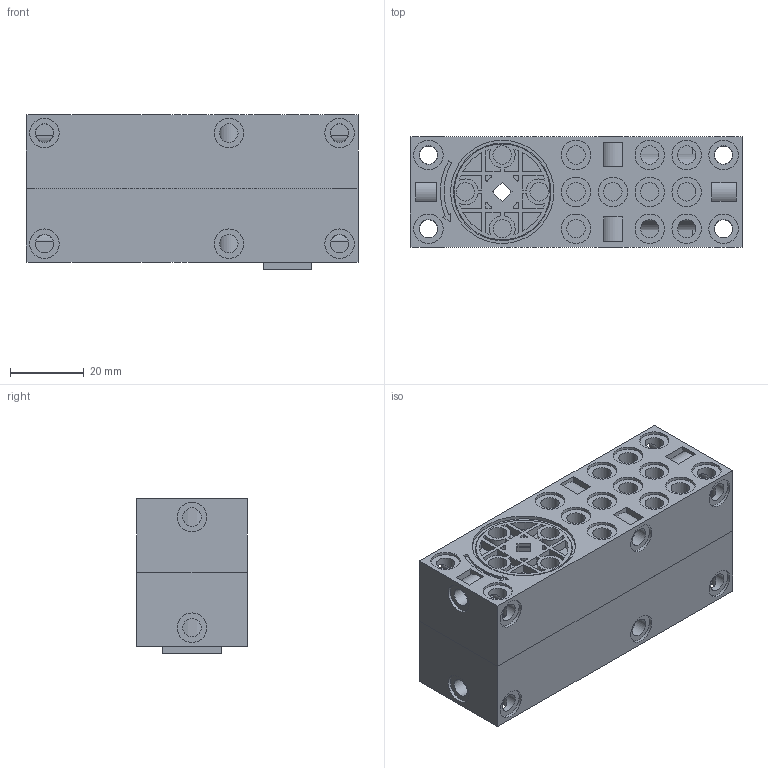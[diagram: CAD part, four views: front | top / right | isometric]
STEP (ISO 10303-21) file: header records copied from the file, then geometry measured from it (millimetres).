
FILE_DESCRIPTION(/* description */ (''),/* implementation_level */ '2;1');
FILE_NAME(/* name */ '加发射管.stp',/* time_stamp */ '2019-08-06T12:06:23+08:00',/* author */ (''),/* organization */ (''),/* preprocessor_version */ 'ST-DEVELOPER v16',/* originating_system */ 'SIEMENS PLM Software NX 11.0',/* authorisation */ '');
FILE_SCHEMA (('AUTOMOTIVE_DESIGN { 1 0 10303 214 3 1 1 1 }'));
Products named in the file (1): 130 齿轮箱
Bounding box: 90 x 30 x 41.95 mm (x, y, z)
Volume: 53283.3 mm3; surface area: 64404.8 mm2
Topology: 18 solids, 18 shells, 2891 faces, 8299 edges, 5576 vertices
Faces by surface type: plane 1298, cylinder 1100, extrusion 468, cone 16, torus 9
Full cylindrical faces by diameter (mm): 1 x2, 1.5 x2, 1.6 x4, 2 x4, 2.1 x2, 2.2 x4, 2.5 x5, 3 x8, 5 x62, 6 x2, 6.15 x3, 7 x5, 8 x38, 8.95 x2, 9 x3, 11 x1, 12 x1, 14 x3, 16.35 x1, 19 x1, 20 x2, 26 x2, 26.4 x2, 26.9 x2, 28 x2
Entity records: 106008 total; most frequent: CARTESIAN_POINT 31004, ORIENTED_EDGE 16078, DIRECTION 14454, EDGE_CURVE 8039, VERTEX_POINT 5496, AXIS2_PLACEMENT_3D 4953, VECTOR 4548, LINE 4080
